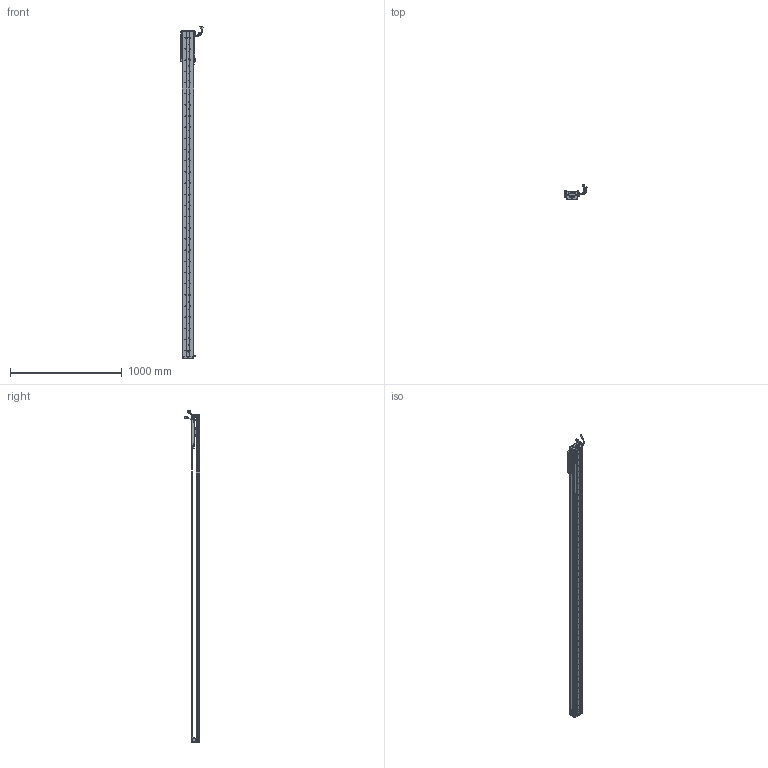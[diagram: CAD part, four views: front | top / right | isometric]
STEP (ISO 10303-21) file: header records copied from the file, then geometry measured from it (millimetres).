
FILE_DESCRIPTION (( 'STEP AP203' ), '1' );
FILE_NAME ('Z3-RY100D-1-L500-B-K.SLDASM_2600.step', '2021-05-17T02:52:38', ( '盈信电脑' ), ( '东莞市道滘镇水果街19号' ), 'SwSTEP 2.0', 'SolidWorks 2016', '' );
FILE_SCHEMA (( 'CONFIG_CONTROL_DESIGN' ));
Length unit declared in the file: millimetre
Products named in the file (36): Z-RY100D覜茼んえ; 覜茼ん672; PBU_SHEET; SCALE-Part-2; SEAL; SCALE-Part-1; SHIELDPLATE; Z-RY100D詩湍狟揤裔; PSLH080_PSLF2; HARNESS; COVER; 140蚥薯蝶輸; LABEL; HOLDER0; Z3-RY100铝滑块（21款）; SCREW-M1.7; HARNESS-Part-2; SCREW-M1.6-2; Z3-RY100D-1-L500-B-K.SLDASM_2600; SCALE; SCREW-M1.6-3; SEAL-Part-1; 100-Z-臏賑輸盄裔(21遴); Z-100詩湍傷裔啣; Z-RY100D詩湍奻揤裔; Z3-RY100D-500-倰第菁釱_2600; HARNESS-Part-1; LABEL-Part-1; SCREW-M1.6-1; 080黍杅芛假蚾釱21遴; SCREW-M1.7-1; 140雄赽晤鎢ん堤盄; SCREW-M1.6; 榋妏寠巭燃_暯_M2_2; COVER-Part-1; Z3-RY100-L500詩湍90mm遵_2600
Assembly tree (43 placements, depth 4):
  Z3-RY100D-1-L500-B-K.SLDASM_2600
    Z3-RY100D-500-倰第菁釱_2600
    Z3-RY100铝滑块（21款）
    PSLH080_PSLF2
      SCALE
        SCALE-Part-1
        SCALE-Part-2
      HARNESS
        HARNESS-Part-1
        HARNESS-Part-2
      LABEL
        LABEL-Part-1
      COVER
        COVER-Part-1
      SEAL
        SEAL-Part-1
      榋妏寠巭燃_暯_M2_2
      SHIELDPLATE
      SCREW-M1.7
      SCREW-M1.7-1
      PBU_SHEET
      SCREW-M1.6
      SCREW-M1.6-1
      SCREW-M1.6-2
      SCREW-M1.6-3
      HOLDER0
    080黍杅芛假蚾釱21遴
    Z-100詩湍傷裔啣  x2
    140蚥薯蝶輸  x2
    覜茼ん672  x3
    Z-RY100D覜茼んえ  x3
    100-Z-臏賑輸盄裔(21遴)
    140雄赽晤鎢ん堤盄
    Z3-RY100-L500詩湍90mm遵_2600
    Z-RY100D詩湍狟揤裔  x2
    Z-RY100D詩湍奻揤裔  x2
Bounding box: 205.79 x 136.11 x 2970.43 mm (x, y, z)
Volume: 5376386.5 mm3; surface area: 2122424.3 mm2
Topology: 38 solids, 38 shells, 3085 faces, 8467 edges, 5412 vertices
Faces by surface type: cylinder 1542, plane 1195, cone 226, torus 69, bspline 53
Entity records: 90133 total; most frequent: CARTESIAN_POINT 18857, DIRECTION 14573, ORIENTED_EDGE 13814, EDGE_CURVE 6907, AXIS2_PLACEMENT_3D 5496, VERTEX_POINT 4480, LINE 3581, VECTOR 3581
